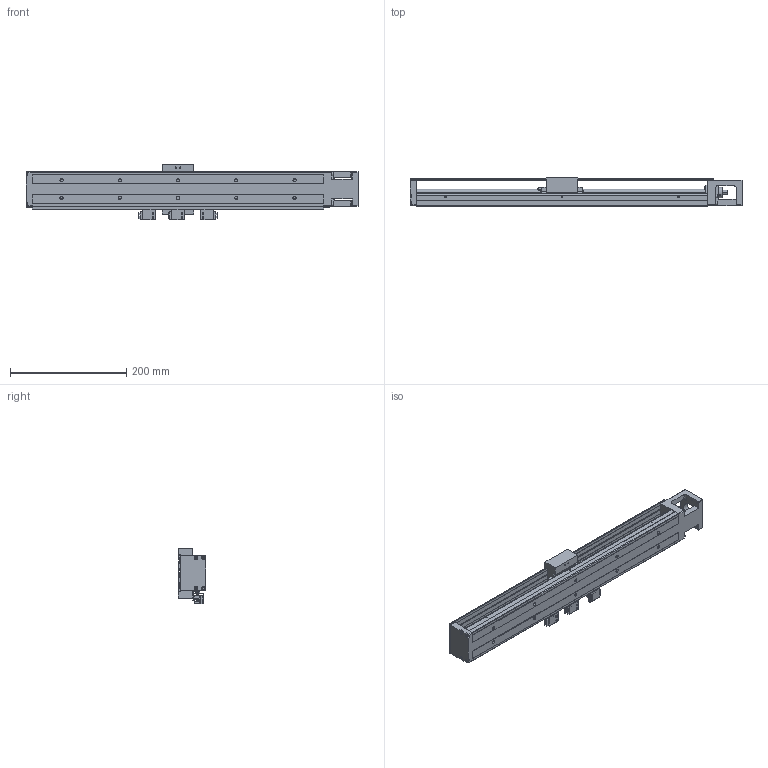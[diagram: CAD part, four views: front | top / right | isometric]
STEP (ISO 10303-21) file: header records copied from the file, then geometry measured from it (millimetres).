
FILE_DESCRIPTION (( 'STEP AP203' ), '1' );
FILE_NAME ('HKK60D10C-500A1-F0CS2.stp', '2021-11-30T01:33:03', ( '' ), ( '' ), 'SwSTEP 2.0', 'SolidWorks 2018', '' );
FILE_SCHEMA (( 'CONFIG_CONTROL_DESIGN' ));
Length unit declared in the file: millimetre
Products named in the file (1): HKK60D10C-500A1-F0CS2
Bounding box: 570 x 48 x 95.85 mm (x, y, z)
Volume: 714827.1 mm3; surface area: 272822.1 mm2
Topology: 6 solids, 16 shells, 1363 faces, 3471 edges, 2209 vertices
Faces by surface type: plane 843, cylinder 384, cone 102, torus 32, bspline 2
Entity records: 41053 total; most frequent: CARTESIAN_POINT 8267, ORIENTED_EDGE 6834, DIRECTION 6657, EDGE_CURVE 3417, LINE 2397, VECTOR 2397, VERTEX_POINT 2209, AXIS2_PLACEMENT_3D 2130
